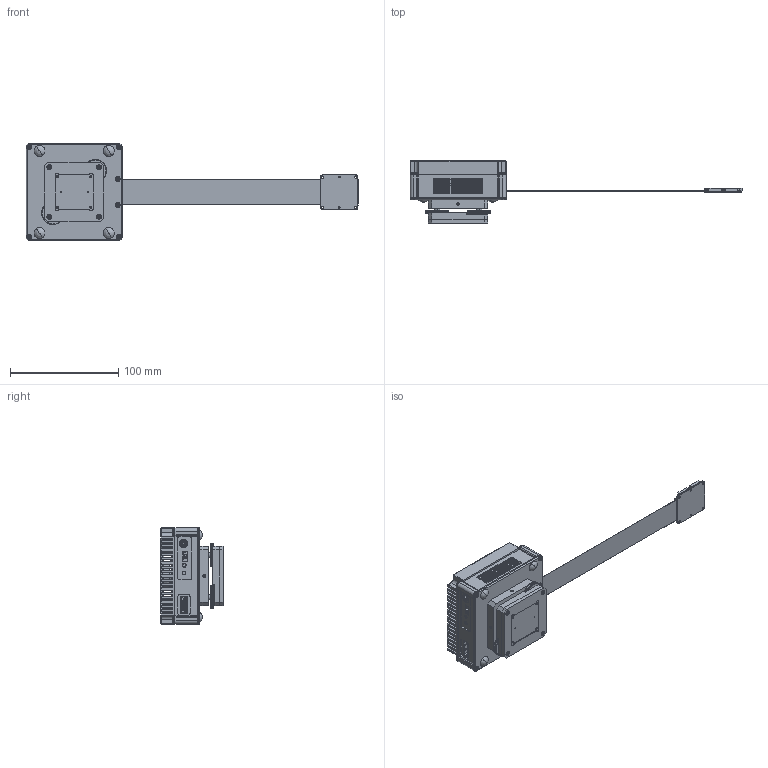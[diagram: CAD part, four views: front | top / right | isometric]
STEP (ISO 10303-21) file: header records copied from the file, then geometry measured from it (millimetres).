
FILE_DESCRIPTION (( 'STEP AP203' ), '1' );
FILE_NAME ('FSLM-2K73-P系列（方板外甩）一体产品图（20cm排线）.STEP', '2025-04-22T07:11:53', ( '' ), ( '' ), 'SwSTEP 2.0', 'SolidWorks 2018', '' );
FILE_SCHEMA (( 'CONFIG_CONTROL_DESIGN' ));
Length unit declared in the file: millimetre
Products named in the file (46): cross recessed countersunk head screws gb1_GB_CROSS_SCREWS_TYPE4 M1.6X3-2  H type-N; 10-2す菜; 蛌諉啣; 二维调节架（定制款）; cross recessed pan head screws gb_GB_CROSS_SCREWS_TYPE1 M2X6-6  H type-N; 棠柲裔啣ㄗA1唳掛ㄘ; M2-5蹟翐; MS-DRV-2K73-AP-V10.STEP; MS-DRV-2K73-AP-V10（简化驱动）; 5010瑞圮潠眢耀倰; MT41K256M16TW-107(colon)P.STEP.STEP; 2k73-A01-DIE; cross recessed countersunk head screws gb2_GB_CROSS_SCREWS_TYPE10 M2X5-3.8-H1-N; 狟啣; cross recessed pan head screws gb_GB_CROSS_SCREWS_TYPE1 M2X5-5  H type-N; EG1270.STEP.STEP; User Library-eg1270.STEP.STEP; 散热片-A1; CONN_S4B-ZR_JST.STEP.STEP; S4B-ZR-SM4A-TF(LF)(SN).STEP.STEP; TE_1-1634010-0.STEP.STEP; _HDMR-19-01-S-SM-TR_p.STEP.STEP; FH30M-80S-0.4SHW.STEP.STEP; FSLM-2K73-P系列（方板外甩）一体产品图（20cm排线）; 齬盄2K-A1; _HDMR-19-01-S-SM-TR_s.STEP.STEP; _HDMR-19-01-S-SM-TR_b.STEP.STEP; 2K X 2K-A1嫖概蚾饜极; 悵誘裔; USB_MICRO_B.STEP.STEP; SMD_HDMIA_RA.STEP.STEP; CUI_DEVICES_PJ-051AH.STEP.STEP; 瑞圮裔啣; HDMR-19-01-S-SM-TR.STEP.STEP; 笢遺; COMPONENTS.STEP.STEP; BGA96C80P9X16_1400X800X120.STEP.STEP; 嫖埭絳极; CUI_PJ-051AH.STEP.STEP; 奻啣 - 2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
Assembly tree (75 placements, depth 7):
  FSLM-2K73-P系列（方板外甩）一体产品图（20cm排线）
    狟啣
    MS-DRV-2K73-AP-V10（简化驱动）
      MS-DRV-2K73-AP-V10.STEP
        COMPONENTS.STEP.STEP
          CUI_PJ-051AH.STEP.STEP
            CUI_DEVICES_PJ-051AH.STEP.STEP
          EG1270.STEP.STEP
            User Library-eg1270.STEP.STEP
          FH30M80S04SHW05.STEP.STEP
            FH30M-80S-0.4SHW.STEP.STEP
          CONN_S4B-ZR_JST.STEP.STEP
            S4B-ZR-SM4A-TF(LF)(SN).STEP.STEP
          TE_1-1634010-0.STEP.STEP  x2
            1056319_1-1634010-0.STEP.STEP
          BGA96C80P9X16_1400X800X120.STEP.STEP
            MT41K256M16TW-107(colon)P.STEP.STEP
          SMD_HDMIA_RA.STEP.STEP
            HDMR-19-01-S-SM-TR.STEP.STEP
              _HDMR-19-01-S-SM-TR_b.STEP.STEP
              _HDMR-19-01-S-SM-TR_s.STEP.STEP
              _HDMR-19-01-S-SM-TR_p.STEP.STEP
          USB_MICRO_B.STEP.STEP
            1521869_1981584-1.STEP.STEP
        BOARD.STEP.STEP
    笢遺
    苤結啣
    5010瑞圮潠眢耀倰
    瑞圮裔啣
    奻啣 - 2
    嫖埭絳极  x2
    cross recessed countersunk head screws gb2_GB_CROSS_SCREWS_TYPE10 M2X5-3.8-H1-N  x14
    cross recessed pan head screws gb_GB_CROSS_SCREWS_TYPE1 M2X6-6  H type-N  x3
    M2-5蹟翐  x4
    cross recessed pan head screws gb_GB_CROSS_SCREWS_TYPE1 M2X5-5  H type-N  x4
    二维调节架（定制款）
    cross recessed countersunk head screws gb2_GB_CROSS_SCREWS_TYPE10 M2X4-2.8-H1-N  x4
    10-2す菜  x4
    蛌諉啣
    2K X 2K-A1嫖概蚾饜极
      散热片-A1
      齬盄2K-A1
      2k73-A01-DIE
      悵誘裔
      cross recessed countersunk head screws gb1_GB_CROSS_SCREWS_TYPE4 M1.6X3-2  H type-N  x2
    棠柲裔啣ㄗA1唳掛ㄘ
Bounding box: 307.18 x 57.5 x 89 mm (x, y, z)
Volume: 169739.7 mm3; surface area: 146157.9 mm2
Topology: 169 solids, 174 shells, 7741 faces, 22028 edges, 14312 vertices
Faces by surface type: plane 5140, cylinder 2083, bspline 251, cone 200, sphere 34, torus 33
Entity records: 243194 total; most frequent: CARTESIAN_POINT 50870, ORIENTED_EDGE 39858, DIRECTION 37698, EDGE_CURVE 19937, LINE 15240, VECTOR 15240, VERTEX_POINT 13258, AXIS2_PLACEMENT_3D 11229
